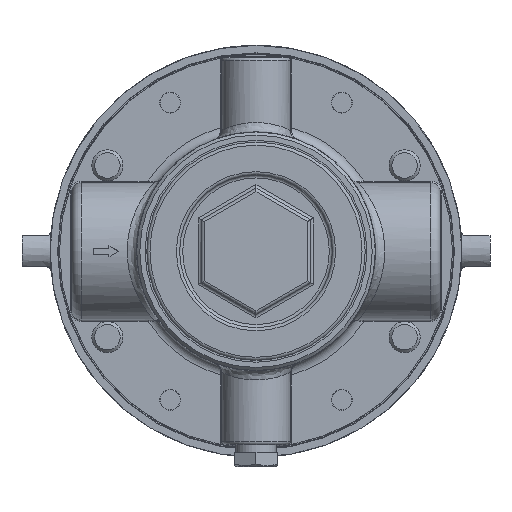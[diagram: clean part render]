
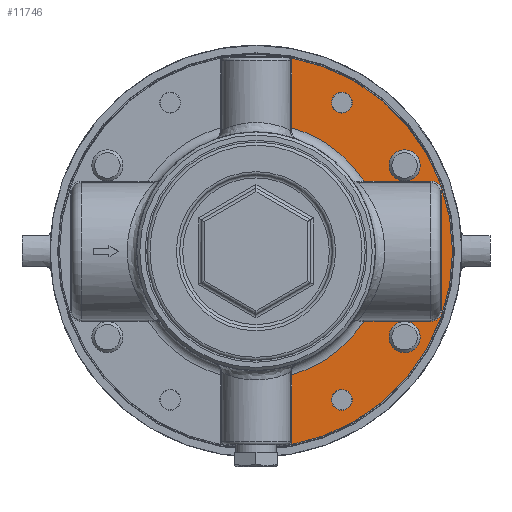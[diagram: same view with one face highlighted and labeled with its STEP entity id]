
A CAD part, front view. The second image highlights one B-rep face of the part: STEP entity #11746.
In plain terms, the highlighted planar face has unit normal (0, -1, 0).
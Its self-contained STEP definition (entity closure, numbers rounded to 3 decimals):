
#932=LINE('',#25911,#1369);
#934=LINE('',#25945,#1371);
#935=LINE('',#25949,#1372);
#936=LINE('',#25953,#1373);
#937=LINE('',#25957,#1374);
#1369=VECTOR('',#16940,10.);
#1371=VECTOR('',#16970,10.);
#1372=VECTOR('',#16973,10.);
#1373=VECTOR('',#16976,10.);
#1374=VECTOR('',#16979,10.);
#1513=FACE_BOUND('',#3205,.T.);
#1514=FACE_BOUND('',#3206,.T.);
#1515=FACE_BOUND('',#3207,.T.);
#1516=FACE_BOUND('',#3208,.T.);
#1685=PLANE('',#13918);
#2467=FACE_OUTER_BOUND('',#3204,.T.);
#3204=EDGE_LOOP('',(#10428,#10429,#10430,#10431,#10432,#10433,#10434,#10435,
#10436,#10437,#10438,#10439,#10440));
#3205=EDGE_LOOP('',(#10441));
#3206=EDGE_LOOP('',(#10442));
#3207=EDGE_LOOP('',(#10443));
#3208=EDGE_LOOP('',(#10444));
#4373=CIRCLE('',#13781,3.324);
#4376=CIRCLE('',#13786,4.188);
#4387=CIRCLE('',#13801,4.188);
#4397=CIRCLE('',#13819,3.324);
#4423=CIRCLE('',#13871,63.);
#4427=CIRCLE('',#13875,63.);
#4451=CIRCLE('',#13909,1.5);
#4455=CIRCLE('',#13919,41.25);
#4456=CIRCLE('',#13920,3.5);
#4457=CIRCLE('',#13921,3.5);
#4458=CIRCLE('',#13922,41.25);
#4459=CIRCLE('',#13923,1.5);
#5448=VERTEX_POINT('',#25281);
#5450=VERTEX_POINT('',#25289);
#5453=VERTEX_POINT('',#25308);
#5459=VERTEX_POINT('',#25336);
#5514=VERTEX_POINT('',#25487);
#5515=VERTEX_POINT('',#25489);
#5526=VERTEX_POINT('',#25572);
#5556=VERTEX_POINT('',#25895);
#5558=VERTEX_POINT('',#25907);
#5564=VERTEX_POINT('',#25942);
#5565=VERTEX_POINT('',#25944);
#5566=VERTEX_POINT('',#25946);
#5567=VERTEX_POINT('',#25948);
#5568=VERTEX_POINT('',#25950);
#5569=VERTEX_POINT('',#25952);
#5570=VERTEX_POINT('',#25954);
#5571=VERTEX_POINT('',#25956);
#7053=EDGE_CURVE('',#5448,#5448,#4373,.T.);
#7057=EDGE_CURVE('',#5450,#5450,#4376,.T.);
#7069=EDGE_CURVE('',#5453,#5453,#4387,.T.);
#7083=EDGE_CURVE('',#5459,#5459,#4397,.T.);
#7155=EDGE_CURVE('',#5514,#5515,#4423,.T.);
#7167=EDGE_CURVE('',#5526,#5514,#4427,.T.);
#7216=EDGE_CURVE('',#5556,#5558,#932,.T.);
#7219=EDGE_CURVE('',#5558,#5526,#4451,.T.);
#7226=EDGE_CURVE('',#5564,#5556,#4455,.T.);
#7227=EDGE_CURVE('',#5565,#5564,#934,.T.);
#7228=EDGE_CURVE('',#5566,#5565,#4456,.T.);
#7229=EDGE_CURVE('',#5567,#5566,#935,.T.);
#7230=EDGE_CURVE('',#5568,#5567,#4457,.T.);
#7231=EDGE_CURVE('',#5569,#5568,#936,.T.);
#7232=EDGE_CURVE('',#5570,#5569,#4458,.T.);
#7233=EDGE_CURVE('',#5571,#5570,#937,.T.);
#7234=EDGE_CURVE('',#5515,#5571,#4459,.T.);
#10428=ORIENTED_EDGE('',*,*,#7219,.F.);
#10429=ORIENTED_EDGE('',*,*,#7216,.F.);
#10430=ORIENTED_EDGE('',*,*,#7226,.F.);
#10431=ORIENTED_EDGE('',*,*,#7227,.F.);
#10432=ORIENTED_EDGE('',*,*,#7228,.F.);
#10433=ORIENTED_EDGE('',*,*,#7229,.F.);
#10434=ORIENTED_EDGE('',*,*,#7230,.F.);
#10435=ORIENTED_EDGE('',*,*,#7231,.F.);
#10436=ORIENTED_EDGE('',*,*,#7232,.F.);
#10437=ORIENTED_EDGE('',*,*,#7233,.F.);
#10438=ORIENTED_EDGE('',*,*,#7234,.F.);
#10439=ORIENTED_EDGE('',*,*,#7155,.F.);
#10440=ORIENTED_EDGE('',*,*,#7167,.F.);
#10441=ORIENTED_EDGE('',*,*,#7083,.T.);
#10442=ORIENTED_EDGE('',*,*,#7053,.T.);
#10443=ORIENTED_EDGE('',*,*,#7069,.T.);
#10444=ORIENTED_EDGE('',*,*,#7057,.T.);
#11746=ADVANCED_FACE('',(#2467,#1513,#1514,#1515,#1516),#1685,.F.);
#13781=AXIS2_PLACEMENT_3D('',#25283,#16626,#16627);
#13786=AXIS2_PLACEMENT_3D('',#25291,#16637,#16638);
#13801=AXIS2_PLACEMENT_3D('',#25310,#16668,#16669);
#13819=AXIS2_PLACEMENT_3D('',#25338,#16708,#16709);
#13871=AXIS2_PLACEMENT_3D('',#25490,#16856,#16857);
#13875=AXIS2_PLACEMENT_3D('',#25585,#16864,#16865);
#13909=AXIS2_PLACEMENT_3D('',#25916,#16947,#16948);
#13918=AXIS2_PLACEMENT_3D('',#25941,#16966,#16967);
#13919=AXIS2_PLACEMENT_3D('',#25943,#16968,#16969);
#13920=AXIS2_PLACEMENT_3D('',#25947,#16971,#16972);
#13921=AXIS2_PLACEMENT_3D('',#25951,#16974,#16975);
#13922=AXIS2_PLACEMENT_3D('',#25955,#16977,#16978);
#13923=AXIS2_PLACEMENT_3D('',#25958,#16980,#16981);
#16626=DIRECTION('center_axis',(0.,1.,0.));
#16627=DIRECTION('ref_axis',(1.,0.,0.));
#16637=DIRECTION('center_axis',(0.,1.,0.));
#16638=DIRECTION('ref_axis',(-1.,0.,0.));
#16668=DIRECTION('center_axis',(0.,1.,0.));
#16669=DIRECTION('ref_axis',(-1.,0.,0.));
#16708=DIRECTION('center_axis',(0.,1.,0.));
#16709=DIRECTION('ref_axis',(1.,0.,0.));
#16856=DIRECTION('center_axis',(0.,1.,0.));
#16857=DIRECTION('ref_axis',(-1.,0.,0.));
#16864=DIRECTION('center_axis',(0.,1.,0.));
#16865=DIRECTION('ref_axis',(-1.,0.,0.));
#16940=DIRECTION('',(0.,0.,1.));
#16947=DIRECTION('center_axis',(0.,-1.,0.));
#16948=DIRECTION('ref_axis',(0.707,0.,0.707));
#16966=DIRECTION('center_axis',(0.,1.,0.));
#16967=DIRECTION('ref_axis',(0.,0.,1.));
#16968=DIRECTION('center_axis',(0.,-1.,0.));
#16969=DIRECTION('ref_axis',(0.585,0.,0.811));
#16970=DIRECTION('',(-1.,0.,0.));
#16971=DIRECTION('center_axis',(0.,-1.,0.));
#16972=DIRECTION('ref_axis',(0.707,0.,0.707));
#16973=DIRECTION('',(0.,0.,1.));
#16974=DIRECTION('center_axis',(0.,-1.,0.));
#16975=DIRECTION('ref_axis',(0.707,0.,-0.707));
#16976=DIRECTION('',(1.,0.,0.));
#16977=DIRECTION('center_axis',(0.,-1.,0.));
#16978=DIRECTION('ref_axis',(0.585,0.,-0.811));
#16979=DIRECTION('',(0.,0.,1.));
#16980=DIRECTION('center_axis',(0.,-1.,0.));
#16981=DIRECTION('ref_axis',(0.707,0.,-0.707));
#25281=CARTESIAN_POINT('',(24.177,74.,-47.631));
#25283=CARTESIAN_POINT('Origin',(27.5,74.,-47.631));
#25289=CARTESIAN_POINT('',(51.819,74.,-27.5));
#25291=CARTESIAN_POINT('Origin',(47.631,74.,-27.5));
#25308=CARTESIAN_POINT('',(51.819,74.,27.5));
#25310=CARTESIAN_POINT('Origin',(47.631,74.,27.5));
#25336=CARTESIAN_POINT('',(24.177,74.,47.631));
#25338=CARTESIAN_POINT('Origin',(27.5,74.,47.631));
#25487=CARTESIAN_POINT('',(63.,74.,0.));
#25489=CARTESIAN_POINT('',(11.14,74.,-62.007));
#25490=CARTESIAN_POINT('Origin',(0.,74.,0.));
#25572=CARTESIAN_POINT('',(11.14,74.,62.007));
#25585=CARTESIAN_POINT('Origin',(0.,74.,0.));
#25895=CARTESIAN_POINT('',(11.5,74.,39.615));
#25907=CARTESIAN_POINT('',(11.5,74.,61.032));
#25911=CARTESIAN_POINT('',(11.5,74.,64.062));
#25916=CARTESIAN_POINT('Origin',(10.,74.,61.032));
#25941=CARTESIAN_POINT('Origin',(0.266,74.,65.123));
#25942=CARTESIAN_POINT('',(34.573,74.,22.5));
#25943=CARTESIAN_POINT('Origin',(0.,74.,0.));
#25944=CARTESIAN_POINT('',(56.034,74.,22.5));
#25945=CARTESIAN_POINT('',(31.633,74.,22.5));
#25946=CARTESIAN_POINT('',(59.534,74.,19.));
#25947=CARTESIAN_POINT('Origin',(56.034,74.,19.));
#25948=CARTESIAN_POINT('',(59.534,74.,-19.));
#25949=CARTESIAN_POINT('',(59.534,74.,43.562));
#25950=CARTESIAN_POINT('',(56.034,74.,-22.5));
#25951=CARTESIAN_POINT('Origin',(56.034,74.,-19.));
#25952=CARTESIAN_POINT('',(34.573,74.,-22.5));
#25953=CARTESIAN_POINT('',(31.633,74.,-22.5));
#25954=CARTESIAN_POINT('',(11.5,74.,-39.615));
#25955=CARTESIAN_POINT('Origin',(0.,74.,0.));
#25956=CARTESIAN_POINT('',(11.5,74.,-61.032));
#25957=CARTESIAN_POINT('',(11.5,74.,1.062));
#25958=CARTESIAN_POINT('Origin',(10.,74.,-61.032));
